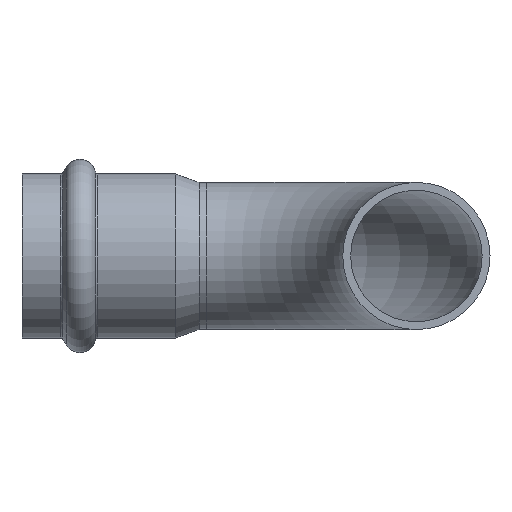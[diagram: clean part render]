
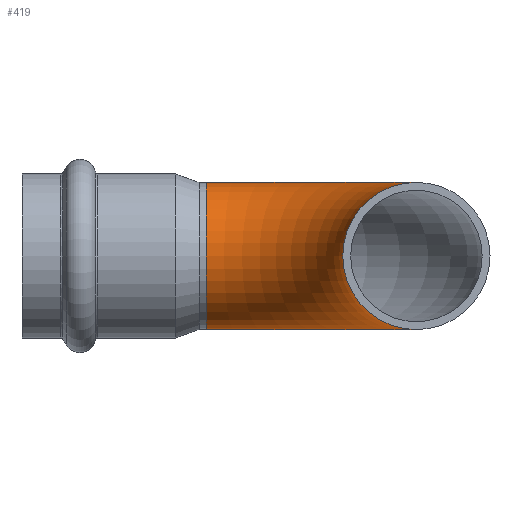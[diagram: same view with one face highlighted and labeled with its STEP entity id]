
A CAD part, front view. The second image highlights one B-rep face of the part: STEP entity #419.
In plain terms, the highlighted toroidal (fillet/blend) face has major radius 40 mm and minor radius 14 mm.
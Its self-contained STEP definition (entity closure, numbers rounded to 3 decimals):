
#388=CARTESIAN_POINT('',(40.,-40.,-14.));
#389=VERTEX_POINT('',#388);
#390=CARTESIAN_POINT('',(40.0,-40.,0.0));
#391=DIRECTION('',(0.0,1.0,0.0));
#392=DIRECTION('',(0.0,0.0,1.0));
#393=AXIS2_PLACEMENT_3D('',#390,#391,#392);
#394=CIRCLE('',#393,14.);
#395=EDGE_CURVE('',#389,#389,#394,.T.);
#400=CARTESIAN_POINT('',(0.,-40.0,0.0));
#401=DIRECTION('',(0.0,0.0,-1.0));
#402=DIRECTION('',(-1.0,0.0,0.0));
#403=AXIS2_PLACEMENT_3D('',#400,#401,#402);
#404=TOROIDAL_SURFACE('',#403,40.0,14.);
#405=ORIENTED_EDGE('',*,*,#395,.T.);
#406=EDGE_LOOP('',(#405));
#407=FACE_OUTER_BOUND('',#406,.T.);
#408=CARTESIAN_POINT('',(0.,14.,0.0));
#409=VERTEX_POINT('',#408);
#410=CARTESIAN_POINT('',(0.,0.,0.0));
#411=DIRECTION('',(1.0,0.0,0.0));
#412=DIRECTION('',(0.0,1.0,0.0));
#413=AXIS2_PLACEMENT_3D('',#410,#411,#412);
#414=CIRCLE('',#413,14.);
#415=EDGE_CURVE('',#409,#409,#414,.T.);
#416=ORIENTED_EDGE('',*,*,#415,.T.);
#417=EDGE_LOOP('',(#416));
#418=FACE_BOUND('',#417,.T.);
#419=ADVANCED_FACE('',(#407,#418),#404,.T.);
